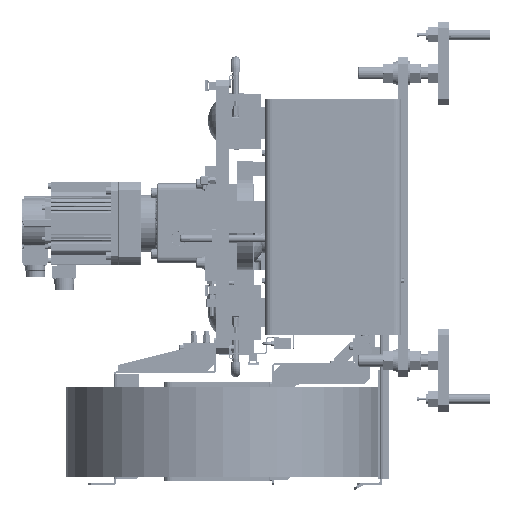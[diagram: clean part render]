
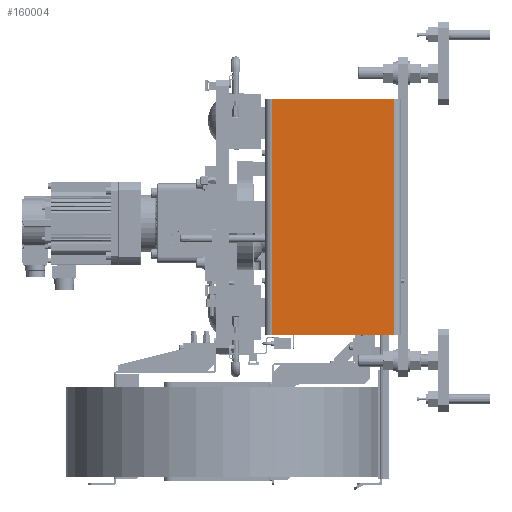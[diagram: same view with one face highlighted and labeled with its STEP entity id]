
A CAD part, left-side view. The second image highlights one B-rep face of the part: STEP entity #160004.
In plain terms, the highlighted planar face has unit normal (-1, 0, 0).
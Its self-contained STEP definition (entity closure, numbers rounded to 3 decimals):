
#1 = LINE ( 'NONE', #138699, #75621 ) ;
#9774 = CARTESIAN_POINT ( 'NONE',  ( -63., 202.2, 185. ) ) ;
#10277 = AXIS2_PLACEMENT_3D ( 'NONE', #100166, #101337, #68666 ) ;
#14569 = DIRECTION ( 'NONE',  ( 0., -1., 0. ) ) ;
#22285 = VECTOR ( 'NONE', #105081, 1000. ) ;
#25523 = VERTEX_POINT ( 'NONE', #211710 ) ;
#32457 = LINE ( 'NONE', #101275, #190963 ) ;
#34093 = VECTOR ( 'NONE', #14569, 1000. ) ;
#38949 = EDGE_CURVE ( 'NONE', #198781, #114151, #1, .T. ) ;
#57892 = EDGE_CURVE ( 'NONE', #198781, #25523, #193690, .T. ) ;
#68666 = DIRECTION ( 'NONE',  ( 0., 1., 0. ) ) ;
#68674 = EDGE_CURVE ( 'NONE', #25523, #134273, #120617, .T. ) ;
#75621 = VECTOR ( 'NONE', #122400, 1000. ) ;
#75649 = EDGE_CURVE ( 'NONE', #114151, #134273, #32457, .T. ) ;
#100166 = CARTESIAN_POINT ( 'NONE',  ( -63., 10.8, 185. ) ) ;
#100282 = ORIENTED_EDGE ( 'NONE', *, *, #75649, .F. ) ;
#101275 = CARTESIAN_POINT ( 'NONE',  ( -63., 10.8, 185. ) ) ;
#101337 = DIRECTION ( 'NONE',  ( 1., 0., 0. ) ) ;
#105081 = DIRECTION ( 'NONE',  ( 0., 0., -1. ) ) ;
#108084 = ORIENTED_EDGE ( 'NONE', *, *, #57892, .T. ) ;
#108341 = EDGE_LOOP ( 'NONE', ( #215509, #100282, #187194, #108084 ) ) ;
#112938 = CARTESIAN_POINT ( 'NONE',  ( -63., 10.8, 185. ) ) ;
#114151 = VERTEX_POINT ( 'NONE', #112938 ) ;
#116569 = FACE_OUTER_BOUND ( 'NONE', #108341, .T. ) ;
#120617 = LINE ( 'NONE', #191695, #34093 ) ;
#122400 = DIRECTION ( 'NONE',  ( 0., -1., 0. ) ) ;
#134273 = VERTEX_POINT ( 'NONE', #210401 ) ;
#138699 = CARTESIAN_POINT ( 'NONE',  ( -63., 10.8, 185. ) ) ;
#160004 = ADVANCED_FACE ( 'NONE', ( #116569 ), #228294, .F. ) ;
#185538 = DIRECTION ( 'NONE',  ( 0., 0., -1. ) ) ;
#187194 = ORIENTED_EDGE ( 'NONE', *, *, #38949, .F. ) ;
#190963 = VECTOR ( 'NONE', #185538, 1000. ) ;
#191695 = CARTESIAN_POINT ( 'NONE',  ( -63., 10.8, -185. ) ) ;
#193690 = LINE ( 'NONE', #197125, #22285 ) ;
#197125 = CARTESIAN_POINT ( 'NONE',  ( -63., 202.2, 185. ) ) ;
#198781 = VERTEX_POINT ( 'NONE', #9774 ) ;
#210401 = CARTESIAN_POINT ( 'NONE',  ( -63., 10.8, -185. ) ) ;
#211710 = CARTESIAN_POINT ( 'NONE',  ( -63., 202.2, -185. ) ) ;
#215509 = ORIENTED_EDGE ( 'NONE', *, *, #68674, .T. ) ;
#228294 = PLANE ( 'NONE',  #10277 ) ;
